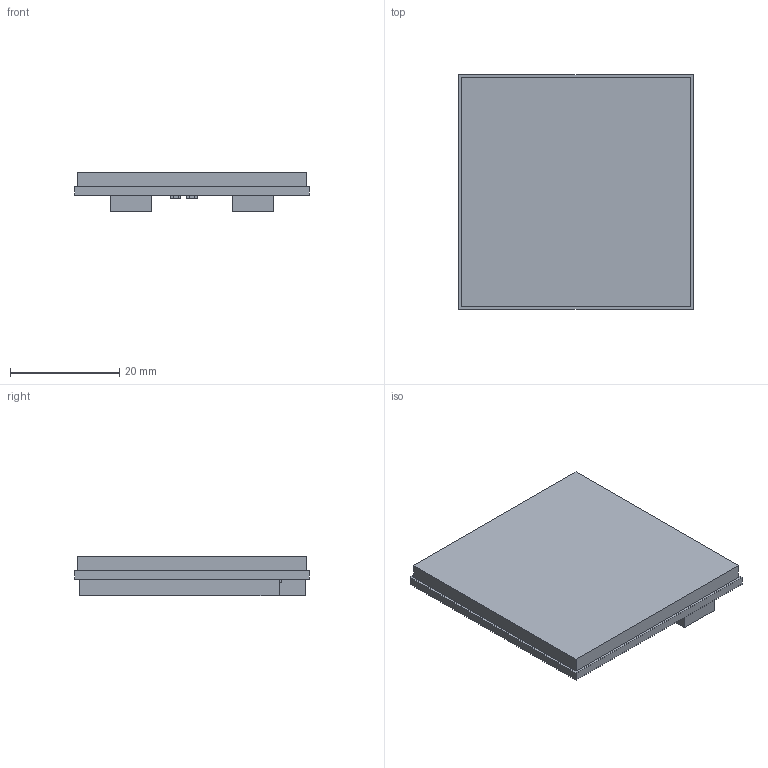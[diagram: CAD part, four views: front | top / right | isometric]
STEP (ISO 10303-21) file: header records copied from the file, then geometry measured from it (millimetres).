
FILE_DESCRIPTION(('FreeCAD Model'),'2;1');
FILE_NAME('P:/Development/DH-017 PCL-071 to PBA-C-24/Hardware/Schematics/5520.0-001_2022-10-28/5520.0/PCB/Output/5520.0.step','2022-10-28T14:15:48',( 'Author'),(''),'Open CASCADE STEP processor 7.3','FreeCAD','Unknown' );
FILE_SCHEMA(('AUTOMOTIVE_DESIGN { 1 0 10303 214 1 1 1 1 }'));
Length unit declared in the file: millimetre
Products named in the file (13): _J2_; _X3_; _Z1_; _Z2_; _Z4_; _DMC1_; _DMC2_; _Z3_; _X1_; _Z5_; Board_outline; _X2_; _J1_
Bounding box: 43 x 43 x 7.25 mm (x, y, z)
Volume: 8751.2 mm3; surface area: 9097.9 mm2
Topology: 13 solids, 13 shells, 90 faces, 192 edges, 128 vertices
Faces by surface type: plane 82, cylinder 8
Entity records: 5166 total; most frequent: CARTESIAN_POINT 867, DIRECTION 762, LINE 544, VECTOR 544, ORIENTED_EDGE 384, PCURVE 384, DEFINITIONAL_REPRESENTATION 384, EDGE_CURVE 192
